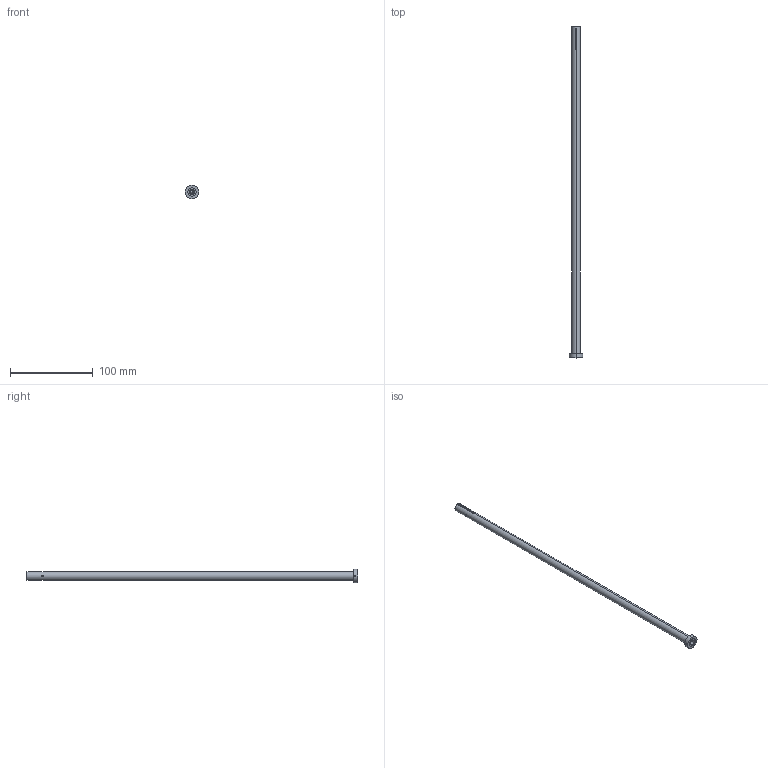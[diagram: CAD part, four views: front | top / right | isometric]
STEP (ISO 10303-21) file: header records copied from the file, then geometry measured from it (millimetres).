
FILE_DESCRIPTION (( 'STEP AP203' ), '1' );
FILE_NAME ('SGDE-1005x400.STEP', '2017-01-10T15:48:22', ( 'Balzi' ), ( '' ), 'SwSTEP 2.0', 'SolidWorks 2016', '' );
FILE_SCHEMA (( 'CONFIG_CONTROL_DESIGN' ));
Length unit declared in the file: millimetre
Products named in the file (1): SGDE-1005x400
Bounding box: 16 x 400.5 x 16 mm (x, y, z)
Volume: 20570.2 mm3; surface area: 21458.4 mm2
Topology: 1 solids, 1 shells, 84 faces, 234 edges, 154 vertices
Faces by surface type: cylinder 48, plane 32, cone 4
Entity records: 3309 total; most frequent: CARTESIAN_POINT 1073, ORIENTED_EDGE 468, DIRECTION 422, EDGE_CURVE 234, AXIS2_PLACEMENT_3D 155, VERTEX_POINT 154, VECTOR 112, LINE 112
